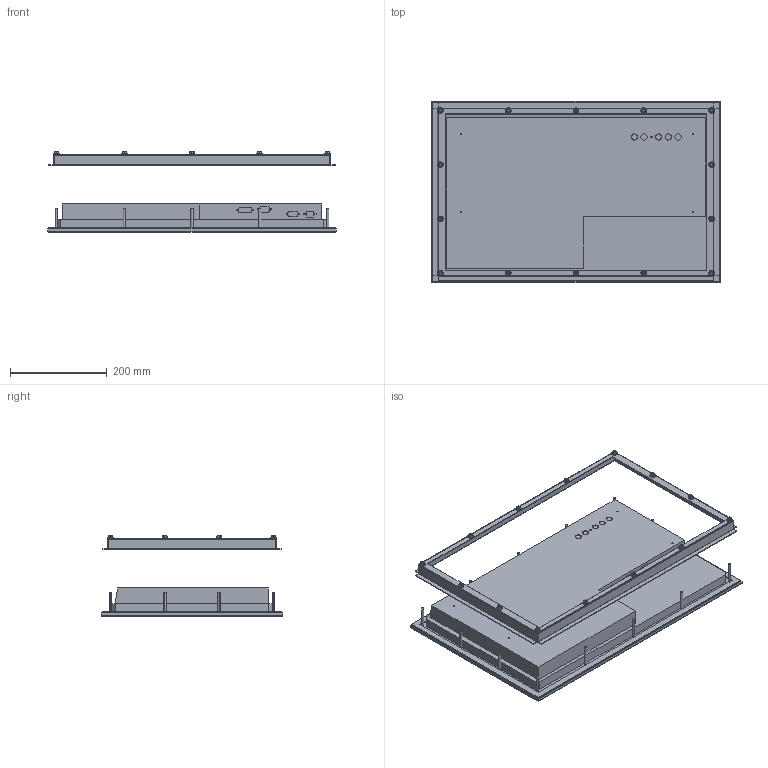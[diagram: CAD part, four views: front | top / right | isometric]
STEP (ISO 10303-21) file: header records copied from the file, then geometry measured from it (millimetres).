
FILE_DESCRIPTION (( 'STEP AP214' ), '1' );
FILE_NAME ('23 inch Panel Mount Monitor, HIS-ML23-xxxC.STEP', '2017-06-26T16:55:50', ( '' ), ( '' ), 'SwSTEP 2.0', 'SolidWorks 2017', '' );
FILE_SCHEMA (( 'AUTOMOTIVE_DESIGN' ));
Length unit declared in the file: millimetre
Products named in the file (4): M5 Nut, 30008_M5 Nut - 30008; Collar, 10914; Monitor, 23C; 23 inch Panel Mount Monitor, HIS-ML23-xxxC
Assembly tree (16 placements, depth 2):
  23 inch Panel Mount Monitor, HIS-ML23-xxxC
    Monitor, 23C
    Collar, 10914
    M5 Nut, 30008_M5 Nut - 30008  x14
Bounding box: 596.9 x 374.65 x 166.53 mm (x, y, z)
Volume: 9502835 mm3; surface area: 1395228.4 mm2
Topology: 18 solids, 18 shells, 766 faces, 1717 edges, 1022 vertices
Faces by surface type: plane 283, cylinder 187, cone 176, bspline 92, torus 28
Entity records: 10659 total; most frequent: CARTESIAN_POINT 2378, DIRECTION 1717, ORIENTED_EDGE 1598, EDGE_CURVE 799, AXIS2_PLACEMENT_3D 615, VERTEX_POINT 502, VECTOR 487, LINE 487
